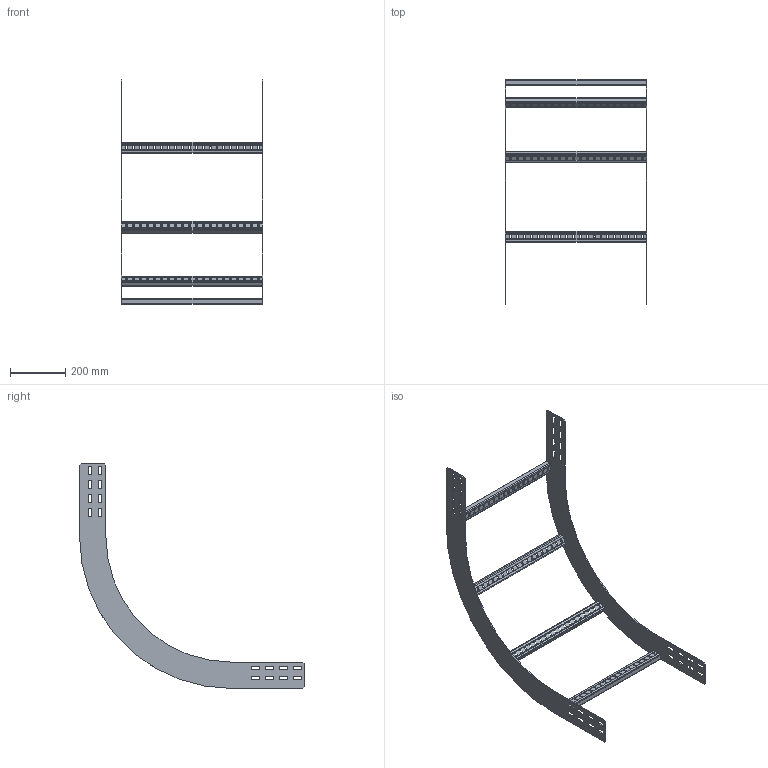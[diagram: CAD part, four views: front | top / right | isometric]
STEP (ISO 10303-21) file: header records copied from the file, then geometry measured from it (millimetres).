
FILE_DESCRIPTION(('Creo Elements/Direct Modeling STEP Export'),'2;1');
FILE_NAME('WPIR10-50-90-45.stp','2016-06-01T14:46:04',(''),(''),'PTC Creo Elements/Direct Modeling STEP processor for AP214 (Solid Model)','PTC Creo Elements/Direct Modeling 19.0C 15-Aug-2015 (C) Parametric Technology GmbH','');
FILE_SCHEMA(('AUTOMOTIVE_DESIGN { 1 0 10303 214 1 1 1 1 }'));
Length unit declared in the file: millimetre
Products named in the file (3): WPIBG100_450; WPHBS50; WPIR10-50-90-45
Assembly tree (6 placements, depth 2):
  WPIR10-50-90-45
    WPHBS50  x4
    WPIBG100_450  x2
Bounding box: 511 x 810 x 810 mm (x, y, z)
Volume: 1008920.4 mm3; surface area: 906086.5 mm2
Topology: 6 solids, 6 shells, 636 faces, 1872 edges, 1248 vertices
Faces by surface type: plane 400, cylinder 236
Entity records: 6812 total; most frequent: CARTESIAN_POINT 1174, ORIENTED_EDGE 1164, DIRECTION 1110, EDGE_CURVE 582, VECTOR 462, LINE 462, VERTEX_POINT 388, AXIS2_PLACEMENT_3D 324
